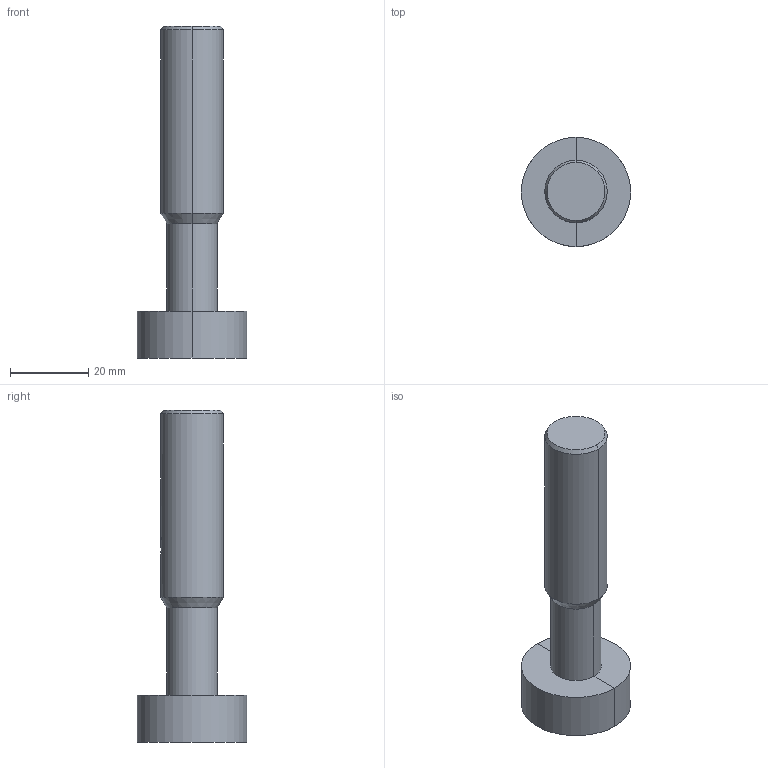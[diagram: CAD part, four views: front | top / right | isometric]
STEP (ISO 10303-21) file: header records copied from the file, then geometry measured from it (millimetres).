
FILE_DESCRIPTION(('no description'),'unknown implementation level');
FILE_NAME('solida_G7HK2fH1pyl_YkFKMqjScIkoc_1.STP',' ',('CIMSOURCE GmbH'),('CADClick - KiM GmbH - www.kimweb.de'),'unknown preprocess','ACIS','unknown authorization');
FILE_SCHEMA(('automotive_design'));
Length unit declared in the file: millimetre
Products named in the file (2): NOCUT; CUT
Bounding box: 28 x 28 x 85 mm (x, y, z)
Volume: 20428.5 mm3; surface area: 8709.2 mm2
Topology: 2 solids, 2 shells, 39 faces, 89 edges, 54 vertices
Faces by surface type: cylinder 18, cone 12, plane 9
Entity records: 2436 total; most frequent: CARTESIAN_POINT 468, DIRECTION 199, STYLED_ITEM 184, PRESENTATION_STYLE_ASSIGNMENT 184, COLOUR_RGB 184, ORIENTED_EDGE 178, EDGE_CURVE 89, CURVE_STYLE 89
